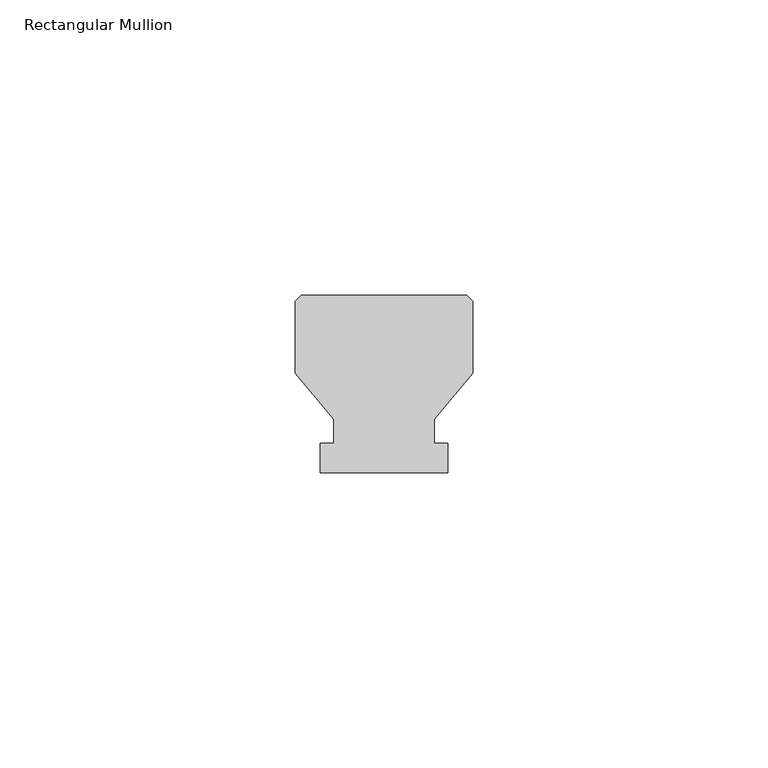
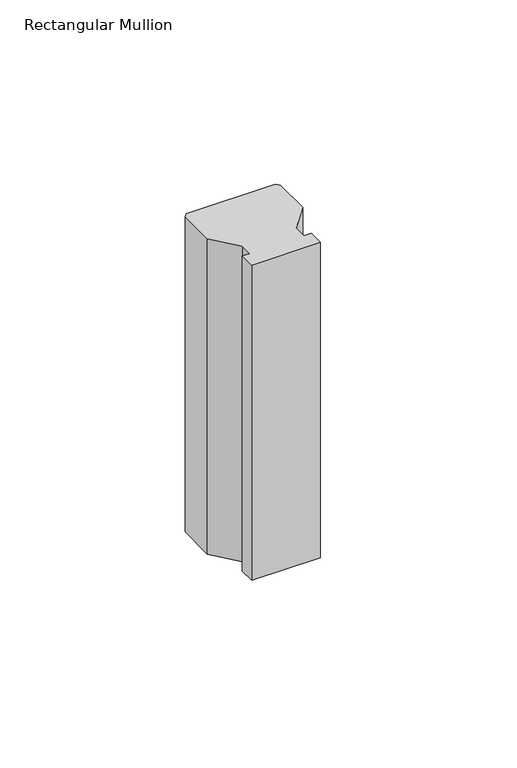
"""IFC4 building model written with IfcOpenShell, lengths in millimetres: member geometry, Rectangular Mullion : Batten_Timber_Modinex_Austratus_Grid_Fin_30x30_AlaskanYellowCedar."""

from ifc_helpers import new_model, si_unit, frame, origin, place, context, project, spatial, polyline, outline, extrude, source, transform, mapped, element, save


def rectangular_mullion_e2bab149(model_context):
    return source(origin(), model_context, "Body", "SweptSolid", [
        extrude(outline(polyline([(-15.0, 16.8079815), (-15.0, 29.0), (-14.0, 30.0), (14.0, 30.0), (15.0, 29.0), (15.0, 16.8079815), (8.5, 9.0), (8.5, 5.0), (10.812195, 5.0), (10.812195, 0.0), (-10.812195, 0.0), (-10.812195, 5.0), (-8.5, 5.0), (-8.5, 9.0), (-15.0, 16.8079815)])), frame((0.0, 0.0, -105.0000003), z_axis=(0.0, 0.0, 1.0), x_axis=(1.0, 0.0, 0.0)), (0.0, 0.0, 1.0), 105.0000003),
    ])


if __name__ == "__main__":
    model = new_model("IFC4")
    model_context = context("Model", 3, world=origin())
    ifc_project = project(units=[si_unit("LENGTHUNIT", "METRE", prefix="MILLI")], contexts=[model_context])
    site = spatial("IfcSite", under=ifc_project)
    building = spatial("IfcBuilding", under=site)
    placement = place(None, origin())
    rectangular_mullion_shape = rectangular_mullion_e2bab149(model_context)
    element("IfcMember", 1, ObjectType="Rectangular Mullion : Batten_Timber_Modinex_Austratus_Grid_Fin_30x30_AlaskanYellowCedar", at=placement, inside=building, context=model_context, shape_type="MappedRepresentation", body=[
        mapped(rectangular_mullion_shape, transform((0.0, 0.0, 0.0), x_axis=(1.0, 0.0, 0.0), y_axis=(0.0, 1.0, 0.0), z_axis=(0.0, 0.0, 1.0))),
    ])
    save(model, "model.ifc")
